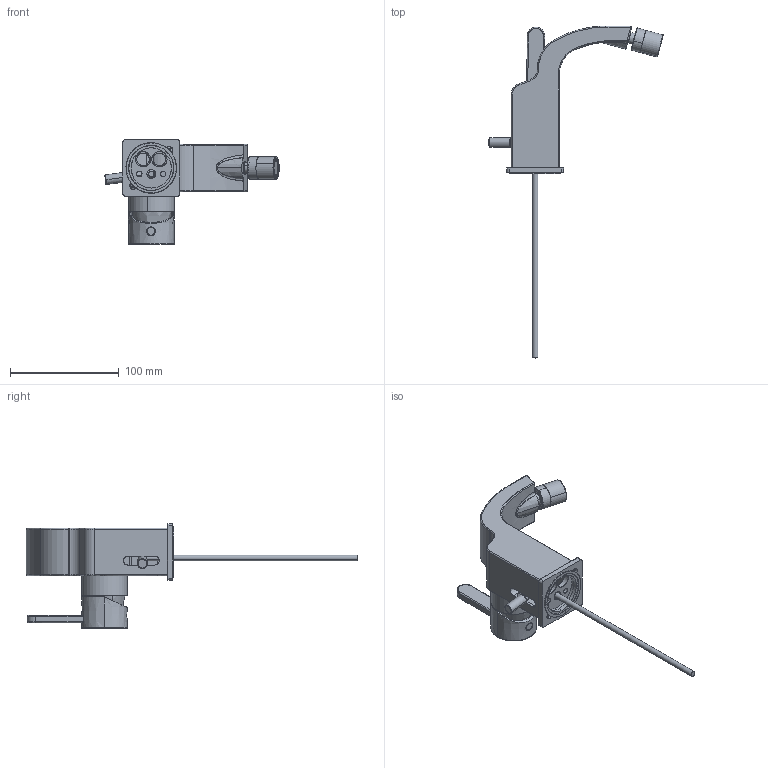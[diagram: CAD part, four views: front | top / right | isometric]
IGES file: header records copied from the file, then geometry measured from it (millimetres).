
Start section: SolidWorks IGES file using analytic representation for surfaces
Global section: file name: C:\Users\J1827277\Desktop\疏擘\FH 8560-D56.IGS,1; native system: 5HSolidWorks 2013; preprocessor: SolidWorks 2013; author: J1827277; date: 130403.143716; units: millimetre
Bounding box: 160.27 x 305.25 x 96.2 mm (x, y, z)
Surface area: 63251.9 mm2 (no closed solid volume)
Topology: 0 solids, 0 shells, 240 faces, 4326 edges, 4324 vertices
Faces by surface type: revolution 129, bspline 111
